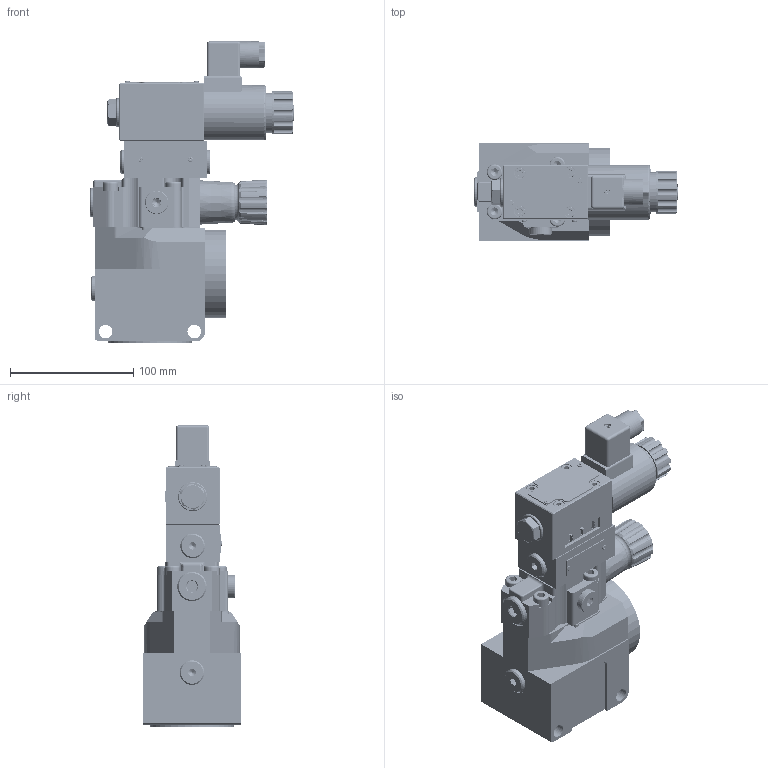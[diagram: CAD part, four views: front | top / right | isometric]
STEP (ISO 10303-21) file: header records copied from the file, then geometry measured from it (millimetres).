
FILE_DESCRIPTION(/* description */ (''),/* implementation_level */ '2;1');
FILE_NAME(/* name */ 'DBW20G S.stp',/* time_stamp */ '2022-07-09T14:52:35+08:00',/* author */ (''),/* organization */ (''),/* preprocessor_version */ 'ST-DEVELOPER v16.7',/* originating_system */ 'SIEMENS PLM Software NX 12.0',/* authorisation */ '');
FILE_SCHEMA (('AUTOMOTIVE_DESIGN { 1 0 10303 214 3 1 1 1 }'));
Products named in the file (1): DBW20G部件带S
Bounding box: 166 x 80 x 245 mm (x, y, z)
Volume: 878296.2 mm3; surface area: 242548.4 mm2
Topology: 50 solids, 53 shells, 1995 faces, 5020 edges, 3206 vertices
Faces by surface type: plane 826, cylinder 777, cone 178, bspline 103, torus 85, sphere 26
Full cylindrical faces by diameter (mm): 1.5 x6, 1.8 x8, 2 x7, 2.55 x20, 3 x41, 3.3 x1, 3.5 x1, 4 x5, 4.2 x1, 4.3 x4, 4.6 x2, 5 x119, 5.3 x4, 5.4 x4, 5.5 x2, 6 x6, 6.5 x1, 6.7 x48, 7 x2, 8 x6, 8.1 x1, 8.4 x4, 8.5 x4, 8.7 x1, 9 x1, 9.4 x4, 9.653 x4, 10 x1, 11 x3, 11.093 x1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
Entity records: 169123 total; most frequent: CARTESIAN_POINT 130849, DIRECTION 7557, ORIENTED_EDGE 7296, EDGE_CURVE 3648, AXIS2_PLACEMENT_3D 2868, VERTEX_POINT 2512, EDGE_LOOP 2283, LINE 1821
